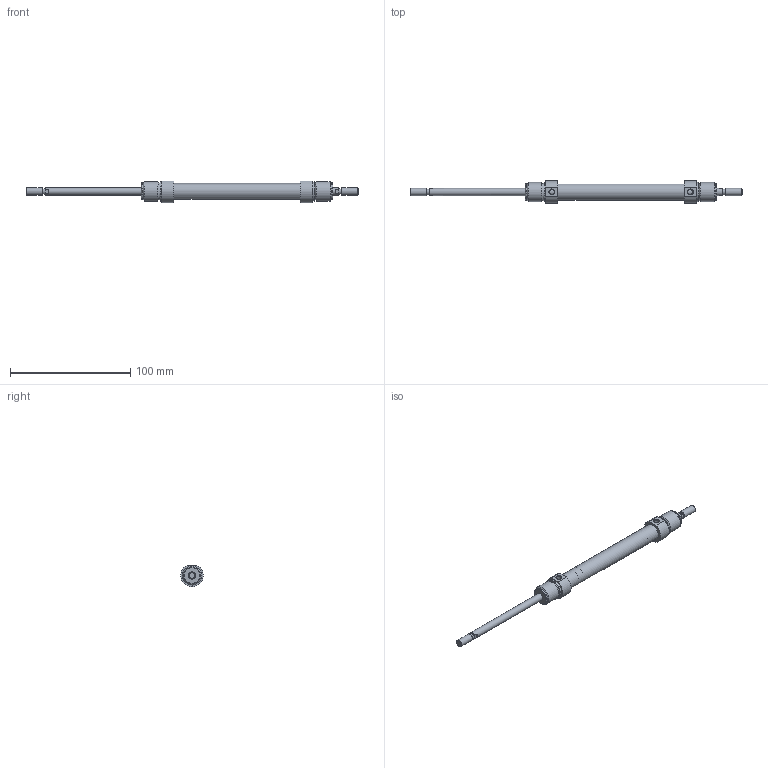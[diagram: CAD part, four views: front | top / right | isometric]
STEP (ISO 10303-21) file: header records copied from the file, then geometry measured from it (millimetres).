
FILE_DESCRIPTION( ( 'STEP AP203' ), '1' );
FILE_NAME( '//expscmdclustefs.cadenas.external/client_exchange/iodir/jobs/output/wkb68360785_no0/STEP/M101-012-0075-M__0__2_03.stp', ' ', ( ' ' ), ( ' ' ), 'PSStep 15.0.47', 'PARTsolutions', ' ' );
FILE_SCHEMA( ( 'CONFIG_CONTROL_DESIGN' ) );
Length unit declared in the file: millimetre
Products named in the file (3): M101-012-0075-M [0]; HI_M101-012-0075-M-[0]-z; HI_M101-012-0075-M-[0]-k
Assembly tree (2 placements, depth 2):
  M101-012-0075-M [0]
    HI_M101-012-0075-M-[0]-z
    HI_M101-012-0075-M-[0]-k
Bounding box: 276 x 18.73 x 17.86 mm (x, y, z)
Volume: 23313.6 mm3; surface area: 18368.4 mm2
Topology: 2 solids, 2 shells, 65 faces, 129 edges, 80 vertices
Faces by surface type: plane 26, cylinder 23, cone 14, torus 2
Full cylindrical faces by diameter (mm): 4.134 x2, 4.773 x2, 6 x6, 12 x2, 13.3 x1, 14.16 x4, 16 x4
Entity records: 1670 total; most frequent: CARTESIAN_POINT 324, DIRECTION 280, ORIENTED_EDGE 184, AXIS2_PLACEMENT_3D 128, EDGE_LOOP 116, EDGE_CURVE 92, FACE_OUTER_BOUND 88, VERTEX_POINT 76
